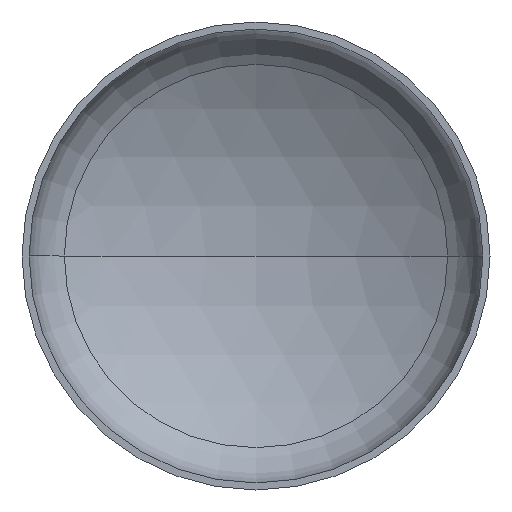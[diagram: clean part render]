
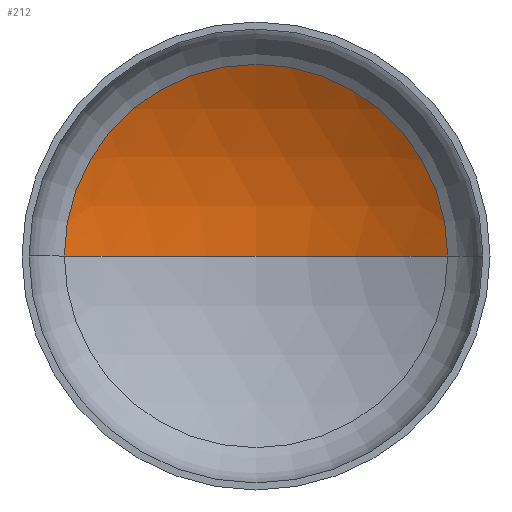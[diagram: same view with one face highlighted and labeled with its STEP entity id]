
A CAD part, front view. The second image highlights one B-rep face of the part: STEP entity #212.
In plain terms, the highlighted spherical face has radius 5600 mm.
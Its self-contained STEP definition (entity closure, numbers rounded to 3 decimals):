
#4 = DIRECTION ( 'NONE',  ( 1., 0., 0. ) ) ;
#24 = CIRCLE ( 'NONE', #59, 2866.903 ) ;
#27 = AXIS2_PLACEMENT_3D ( 'NONE', #176, #236, #29 ) ;
#29 = DIRECTION ( 'NONE',  ( -1., 0., 0. ) ) ;
#42 = VERTEX_POINT ( 'NONE', #281 ) ;
#52 = ORIENTED_EDGE ( 'NONE', *, *, #114, .F. ) ;
#53 = AXIS2_PLACEMENT_3D ( 'NONE', #269, #293, #4 ) ;
#58 = AXIS2_PLACEMENT_3D ( 'NONE', #192, #336, #201 ) ;
#59 = AXIS2_PLACEMENT_3D ( 'NONE', #216, #204, #200 ) ;
#106 = EDGE_CURVE ( 'NONE', #162, #42, #24, .T. ) ;
#111 = EDGE_CURVE ( 'NONE', #128, #162, #309, .T. ) ;
#114 = EDGE_CURVE ( 'NONE', #128, #42, #249, .T. ) ;
#128 = VERTEX_POINT ( 'NONE', #195 ) ;
#143 = EDGE_LOOP ( 'NONE', ( #52, #385, #170 ) ) ;
#162 = VERTEX_POINT ( 'NONE', #268 ) ;
#170 = ORIENTED_EDGE ( 'NONE', *, *, #106, .T. ) ;
#176 = CARTESIAN_POINT ( 'NONE',  ( 0., -3807.757, 0. ) ) ;
#177 = SPHERICAL_SURFACE ( 'NONE', #27, 5600. ) ;
#192 = CARTESIAN_POINT ( 'NONE',  ( 0., -3807.757, 0. ) ) ;
#195 = CARTESIAN_POINT ( 'NONE',  ( 0., 1792.243, 0. ) ) ;
#200 = DIRECTION ( 'NONE',  ( 1., 0., 0. ) ) ;
#201 = DIRECTION ( 'NONE',  ( -1., 0., 0. ) ) ;
#204 = DIRECTION ( 'NONE',  ( 0., -1., 0. ) ) ;
#212 = ADVANCED_FACE ( 'NONE', ( #234 ), #177, .F. ) ;
#216 = CARTESIAN_POINT ( 'NONE',  ( 0., 1002.738, 0. ) ) ;
#234 = FACE_OUTER_BOUND ( 'NONE', #143, .T. ) ;
#236 = DIRECTION ( 'NONE',  ( 0., 0., -1. ) ) ;
#249 = CIRCLE ( 'NONE', #53, 5600. ) ;
#268 = CARTESIAN_POINT ( 'NONE',  ( 2866.903, 1002.738, 0. ) ) ;
#269 = CARTESIAN_POINT ( 'NONE',  ( 0., -3807.757, 0. ) ) ;
#281 = CARTESIAN_POINT ( 'NONE',  ( -2866.903, 1002.738, 0. ) ) ;
#293 = DIRECTION ( 'NONE',  ( 0., 0., 1. ) ) ;
#309 = CIRCLE ( 'NONE', #58, 5600. ) ;
#336 = DIRECTION ( 'NONE',  ( 0., 0., -1. ) ) ;
#385 = ORIENTED_EDGE ( 'NONE', *, *, #111, .T. ) ;
